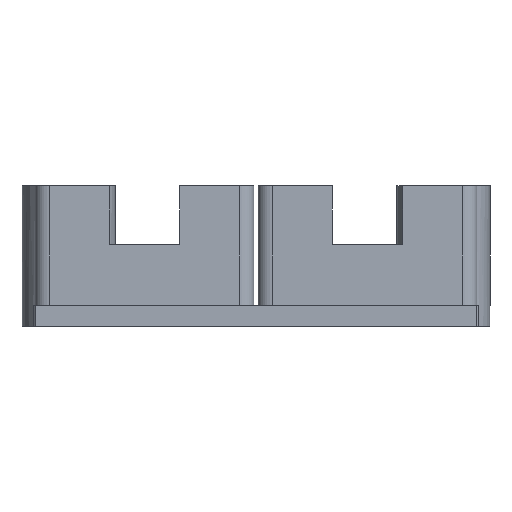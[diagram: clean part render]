
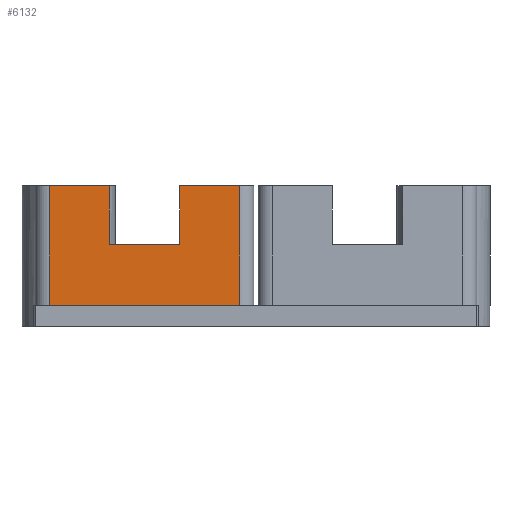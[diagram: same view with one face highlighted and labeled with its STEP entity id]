
A CAD part, front view. The second image highlights one B-rep face of the part: STEP entity #6132.
In plain terms, the highlighted planar face has unit normal (0, -1, 0).
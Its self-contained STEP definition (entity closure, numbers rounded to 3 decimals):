
#906 = PLANE('',#907);
#907 = AXIS2_PLACEMENT_3D('',#908,#909,#910);
#908 = CARTESIAN_POINT('',(-37.925,0.175,11.8));
#909 = DIRECTION('',(0.,0.,1.));
#910 = DIRECTION('',(1.,0.,0.));
#1086 = PLANE('',#1087);
#1087 = AXIS2_PLACEMENT_3D('',#1088,#1089,#1090);
#1088 = CARTESIAN_POINT('',(-18.875,19.225,22.));
#1089 = DIRECTION('',(0.,0.,1.));
#1090 = DIRECTION('',(1.,0.,0.));
#1112 = CYLINDRICAL_SURFACE('',#1113,1.2);
#1113 = AXIS2_PLACEMENT_3D('',#1114,#1115,#1116);
#1114 = CARTESIAN_POINT('',(-17.675,20.425,11.8));
#1115 = DIRECTION('',(0.,0.,1.));
#1116 = DIRECTION('',(-1.,-0.,0.));
#3550 = VERTEX_POINT('',#3551);
#3551 = CARTESIAN_POINT('',(-1.375,19.225,11.8));
#3570 = CYLINDRICAL_SURFACE('',#3571,1.2);
#3571 = AXIS2_PLACEMENT_3D('',#3572,#3573,#3574);
#3572 = CARTESIAN_POINT('',(-1.375,20.425,11.8));
#3573 = DIRECTION('',(0.,0.,1.));
#3574 = DIRECTION('',(1.,0.,-0.));
#3582 = EDGE_CURVE('',#3583,#3550,#3585,.T.);
#3583 = VERTEX_POINT('',#3584);
#3584 = CARTESIAN_POINT('',(-17.675,19.225,11.8));
#3585 = SURFACE_CURVE('',#3586,(#3590,#3597),.PCURVE_S1.);
#3586 = LINE('',#3587,#3588);
#3587 = CARTESIAN_POINT('',(-18.875,19.225,11.8));
#3588 = VECTOR('',#3589,1.);
#3589 = DIRECTION('',(1.,0.,0.));
#3590 = PCURVE('',#906,#3591);
#3591 = DEFINITIONAL_REPRESENTATION('',(#3592),#3596);
#3592 = LINE('',#3593,#3594);
#3593 = CARTESIAN_POINT('',(19.05,19.05));
#3594 = VECTOR('',#3595,1.);
#3595 = DIRECTION('',(1.,0.));
#3596 = ( GEOMETRIC_REPRESENTATION_CONTEXT(2) 
PARAMETRIC_REPRESENTATION_CONTEXT() REPRESENTATION_CONTEXT('2D SPACE',''
  ) );
#3597 = PCURVE('',#3598,#3603);
#3598 = PLANE('',#3599);
#3599 = AXIS2_PLACEMENT_3D('',#3600,#3601,#3602);
#3600 = CARTESIAN_POINT('',(-18.875,19.225,11.8));
#3601 = DIRECTION('',(0.,1.,0.));
#3602 = DIRECTION('',(0.,0.,1.));
#3603 = DEFINITIONAL_REPRESENTATION('',(#3604),#3608);
#3604 = LINE('',#3605,#3606);
#3605 = CARTESIAN_POINT('',(0.,0.));
#3606 = VECTOR('',#3607,1.);
#3607 = DIRECTION('',(0.,1.));
#3608 = ( GEOMETRIC_REPRESENTATION_CONTEXT(2) 
PARAMETRIC_REPRESENTATION_CONTEXT() REPRESENTATION_CONTEXT('2D SPACE',''
  ) );
#3636 = EDGE_CURVE('',#3583,#3637,#3639,.T.);
#3637 = VERTEX_POINT('',#3638);
#3638 = CARTESIAN_POINT('',(-17.675,19.225,22.));
#3639 = SURFACE_CURVE('',#3640,(#3644,#3651),.PCURVE_S1.);
#3640 = LINE('',#3641,#3642);
#3641 = CARTESIAN_POINT('',(-17.675,19.225,11.8));
#3642 = VECTOR('',#3643,1.);
#3643 = DIRECTION('',(0.,0.,1.));
#3644 = PCURVE('',#1112,#3645);
#3645 = DEFINITIONAL_REPRESENTATION('',(#3646),#3650);
#3646 = LINE('',#3647,#3648);
#3647 = CARTESIAN_POINT('',(1.571,0.));
#3648 = VECTOR('',#3649,1.);
#3649 = DIRECTION('',(0.,1.));
#3650 = ( GEOMETRIC_REPRESENTATION_CONTEXT(2) 
PARAMETRIC_REPRESENTATION_CONTEXT() REPRESENTATION_CONTEXT('2D SPACE',''
  ) );
#3651 = PCURVE('',#3598,#3652);
#3652 = DEFINITIONAL_REPRESENTATION('',(#3653),#3657);
#3653 = LINE('',#3654,#3655);
#3654 = CARTESIAN_POINT('',(0.,1.2));
#3655 = VECTOR('',#3656,1.);
#3656 = DIRECTION('',(1.,0.));
#3657 = ( GEOMETRIC_REPRESENTATION_CONTEXT(2) 
PARAMETRIC_REPRESENTATION_CONTEXT() REPRESENTATION_CONTEXT('2D SPACE',''
  ) );
#3687 = EDGE_CURVE('',#3637,#3688,#3690,.T.);
#3688 = VERTEX_POINT('',#3689);
#3689 = CARTESIAN_POINT('',(-12.525,19.225,22.));
#3690 = SURFACE_CURVE('',#3691,(#3695,#3702),.PCURVE_S1.);
#3691 = LINE('',#3692,#3693);
#3692 = CARTESIAN_POINT('',(-18.875,19.225,22.));
#3693 = VECTOR('',#3694,1.);
#3694 = DIRECTION('',(1.,0.,0.));
#3695 = PCURVE('',#1086,#3696);
#3696 = DEFINITIONAL_REPRESENTATION('',(#3697),#3701);
#3697 = LINE('',#3698,#3699);
#3698 = CARTESIAN_POINT('',(0.,0.));
#3699 = VECTOR('',#3700,1.);
#3700 = DIRECTION('',(1.,0.));
#3701 = ( GEOMETRIC_REPRESENTATION_CONTEXT(2) 
PARAMETRIC_REPRESENTATION_CONTEXT() REPRESENTATION_CONTEXT('2D SPACE',''
  ) );
#3702 = PCURVE('',#3598,#3703);
#3703 = DEFINITIONAL_REPRESENTATION('',(#3704),#3708);
#3704 = LINE('',#3705,#3706);
#3705 = CARTESIAN_POINT('',(10.2,0.));
#3706 = VECTOR('',#3707,1.);
#3707 = DIRECTION('',(0.,1.));
#3708 = ( GEOMETRIC_REPRESENTATION_CONTEXT(2) 
PARAMETRIC_REPRESENTATION_CONTEXT() REPRESENTATION_CONTEXT('2D SPACE',''
  ) );
#3725 = PLANE('',#3726);
#3726 = AXIS2_PLACEMENT_3D('',#3727,#3728,#3729);
#3727 = CARTESIAN_POINT('',(-12.525,18.075,17.));
#3728 = DIRECTION('',(1.,0.,0.));
#3729 = DIRECTION('',(0.,0.,1.));
#6132 = ADVANCED_FACE('',(#6133),#3598,.F.);
#6133 = FACE_BOUND('',#6134,.F.);
#6134 = EDGE_LOOP('',(#6135,#6136,#6137,#6138,#6159,#6185,#6211,#6239));
#6135 = ORIENTED_EDGE('',*,*,#3582,.F.);
#6136 = ORIENTED_EDGE('',*,*,#3636,.T.);
#6137 = ORIENTED_EDGE('',*,*,#3687,.T.);
#6138 = ORIENTED_EDGE('',*,*,#6139,.T.);
#6139 = EDGE_CURVE('',#3688,#6140,#6142,.T.);
#6140 = VERTEX_POINT('',#6141);
#6141 = CARTESIAN_POINT('',(-12.525,19.225,17.));
#6142 = SURFACE_CURVE('',#6143,(#6147,#6153),.PCURVE_S1.);
#6143 = LINE('',#6144,#6145);
#6144 = CARTESIAN_POINT('',(-12.525,19.225,14.4));
#6145 = VECTOR('',#6146,1.);
#6146 = DIRECTION('',(0.,0.,-1.));
#6147 = PCURVE('',#3598,#6148);
#6148 = DEFINITIONAL_REPRESENTATION('',(#6149),#6152);
#6149 = B_SPLINE_CURVE_WITH_KNOTS('',1,(#6150,#6151),.UNSPECIFIED.,.F.,
  .F.,(2,2),(-7.6,-2.6),.PIECEWISE_BEZIER_KNOTS.);
#6150 = CARTESIAN_POINT('',(10.2,6.35));
#6151 = CARTESIAN_POINT('',(5.2,6.35));
#6152 = ( GEOMETRIC_REPRESENTATION_CONTEXT(2) 
PARAMETRIC_REPRESENTATION_CONTEXT() REPRESENTATION_CONTEXT('2D SPACE',''
  ) );
#6153 = PCURVE('',#3725,#6154);
#6154 = DEFINITIONAL_REPRESENTATION('',(#6155),#6158);
#6155 = B_SPLINE_CURVE_WITH_KNOTS('',1,(#6156,#6157),.UNSPECIFIED.,.F.,
  .F.,(2,2),(-7.6,-2.6),.PIECEWISE_BEZIER_KNOTS.);
#6156 = CARTESIAN_POINT('',(5.,-1.15));
#6157 = CARTESIAN_POINT('',(0.,-1.15));
#6158 = ( GEOMETRIC_REPRESENTATION_CONTEXT(2) 
PARAMETRIC_REPRESENTATION_CONTEXT() REPRESENTATION_CONTEXT('2D SPACE',''
  ) );
#6159 = ORIENTED_EDGE('',*,*,#6160,.T.);
#6160 = EDGE_CURVE('',#6140,#6161,#6163,.T.);
#6161 = VERTEX_POINT('',#6162);
#6162 = CARTESIAN_POINT('',(-6.525,19.225,17.));
#6163 = SURFACE_CURVE('',#6164,(#6168,#6174),.PCURVE_S1.);
#6164 = LINE('',#6165,#6166);
#6165 = CARTESIAN_POINT('',(-15.7,19.225,17.));
#6166 = VECTOR('',#6167,1.);
#6167 = DIRECTION('',(1.,0.,0.));
#6168 = PCURVE('',#3598,#6169);
#6169 = DEFINITIONAL_REPRESENTATION('',(#6170),#6173);
#6170 = B_SPLINE_CURVE_WITH_KNOTS('',1,(#6171,#6172),.UNSPECIFIED.,.F.,
  .F.,(2,2),(3.175,9.175),.PIECEWISE_BEZIER_KNOTS.);
#6171 = CARTESIAN_POINT('',(5.2,6.35));
#6172 = CARTESIAN_POINT('',(5.2,12.35));
#6173 = ( GEOMETRIC_REPRESENTATION_CONTEXT(2) 
PARAMETRIC_REPRESENTATION_CONTEXT() REPRESENTATION_CONTEXT('2D SPACE',''
  ) );
#6174 = PCURVE('',#6175,#6180);
#6175 = PLANE('',#6176);
#6176 = AXIS2_PLACEMENT_3D('',#6177,#6178,#6179);
#6177 = CARTESIAN_POINT('',(-12.525,18.075,17.));
#6178 = DIRECTION('',(0.,0.,1.));
#6179 = DIRECTION('',(1.,0.,0.));
#6180 = DEFINITIONAL_REPRESENTATION('',(#6181),#6184);
#6181 = B_SPLINE_CURVE_WITH_KNOTS('',1,(#6182,#6183),.UNSPECIFIED.,.F.,
  .F.,(2,2),(3.175,9.175),.PIECEWISE_BEZIER_KNOTS.);
#6182 = CARTESIAN_POINT('',(0.,1.15));
#6183 = CARTESIAN_POINT('',(6.,1.15));
#6184 = ( GEOMETRIC_REPRESENTATION_CONTEXT(2) 
PARAMETRIC_REPRESENTATION_CONTEXT() REPRESENTATION_CONTEXT('2D SPACE',''
  ) );
#6185 = ORIENTED_EDGE('',*,*,#6186,.F.);
#6186 = EDGE_CURVE('',#6187,#6161,#6189,.T.);
#6187 = VERTEX_POINT('',#6188);
#6188 = CARTESIAN_POINT('',(-6.525,19.225,22.));
#6189 = SURFACE_CURVE('',#6190,(#6194,#6200),.PCURVE_S1.);
#6190 = LINE('',#6191,#6192);
#6191 = CARTESIAN_POINT('',(-6.525,19.225,14.4));
#6192 = VECTOR('',#6193,1.);
#6193 = DIRECTION('',(0.,0.,-1.));
#6194 = PCURVE('',#3598,#6195);
#6195 = DEFINITIONAL_REPRESENTATION('',(#6196),#6199);
#6196 = B_SPLINE_CURVE_WITH_KNOTS('',1,(#6197,#6198),.UNSPECIFIED.,.F.,
  .F.,(2,2),(-7.6,-2.6),.PIECEWISE_BEZIER_KNOTS.);
#6197 = CARTESIAN_POINT('',(10.2,12.35));
#6198 = CARTESIAN_POINT('',(5.2,12.35));
#6199 = ( GEOMETRIC_REPRESENTATION_CONTEXT(2) 
PARAMETRIC_REPRESENTATION_CONTEXT() REPRESENTATION_CONTEXT('2D SPACE',''
  ) );
#6200 = PCURVE('',#6201,#6206);
#6201 = PLANE('',#6202);
#6202 = AXIS2_PLACEMENT_3D('',#6203,#6204,#6205);
#6203 = CARTESIAN_POINT('',(-6.525,18.075,17.));
#6204 = DIRECTION('',(1.,0.,0.));
#6205 = DIRECTION('',(0.,0.,1.));
#6206 = DEFINITIONAL_REPRESENTATION('',(#6207),#6210);
#6207 = B_SPLINE_CURVE_WITH_KNOTS('',1,(#6208,#6209),.UNSPECIFIED.,.F.,
  .F.,(2,2),(-7.6,-2.6),.PIECEWISE_BEZIER_KNOTS.);
#6208 = CARTESIAN_POINT('',(5.,-1.15));
#6209 = CARTESIAN_POINT('',(0.,-1.15));
#6210 = ( GEOMETRIC_REPRESENTATION_CONTEXT(2) 
PARAMETRIC_REPRESENTATION_CONTEXT() REPRESENTATION_CONTEXT('2D SPACE',''
  ) );
#6211 = ORIENTED_EDGE('',*,*,#6212,.T.);
#6212 = EDGE_CURVE('',#6187,#6213,#6215,.T.);
#6213 = VERTEX_POINT('',#6214);
#6214 = CARTESIAN_POINT('',(-1.375,19.225,22.));
#6215 = SURFACE_CURVE('',#6216,(#6220,#6227),.PCURVE_S1.);
#6216 = LINE('',#6217,#6218);
#6217 = CARTESIAN_POINT('',(-18.875,19.225,22.));
#6218 = VECTOR('',#6219,1.);
#6219 = DIRECTION('',(1.,0.,0.));
#6220 = PCURVE('',#3598,#6221);
#6221 = DEFINITIONAL_REPRESENTATION('',(#6222),#6226);
#6222 = LINE('',#6223,#6224);
#6223 = CARTESIAN_POINT('',(10.2,0.));
#6224 = VECTOR('',#6225,1.);
#6225 = DIRECTION('',(0.,1.));
#6226 = ( GEOMETRIC_REPRESENTATION_CONTEXT(2) 
PARAMETRIC_REPRESENTATION_CONTEXT() REPRESENTATION_CONTEXT('2D SPACE',''
  ) );
#6227 = PCURVE('',#6228,#6233);
#6228 = PLANE('',#6229);
#6229 = AXIS2_PLACEMENT_3D('',#6230,#6231,#6232);
#6230 = CARTESIAN_POINT('',(-18.875,19.225,22.));
#6231 = DIRECTION('',(0.,0.,1.));
#6232 = DIRECTION('',(1.,0.,0.));
#6233 = DEFINITIONAL_REPRESENTATION('',(#6234),#6238);
#6234 = LINE('',#6235,#6236);
#6235 = CARTESIAN_POINT('',(0.,0.));
#6236 = VECTOR('',#6237,1.);
#6237 = DIRECTION('',(1.,0.));
#6238 = ( GEOMETRIC_REPRESENTATION_CONTEXT(2) 
PARAMETRIC_REPRESENTATION_CONTEXT() REPRESENTATION_CONTEXT('2D SPACE',''
  ) );
#6239 = ORIENTED_EDGE('',*,*,#6240,.F.);
#6240 = EDGE_CURVE('',#3550,#6213,#6241,.T.);
#6241 = SURFACE_CURVE('',#6242,(#6246,#6253),.PCURVE_S1.);
#6242 = LINE('',#6243,#6244);
#6243 = CARTESIAN_POINT('',(-1.375,19.225,11.8));
#6244 = VECTOR('',#6245,1.);
#6245 = DIRECTION('',(0.,0.,1.));
#6246 = PCURVE('',#3598,#6247);
#6247 = DEFINITIONAL_REPRESENTATION('',(#6248),#6252);
#6248 = LINE('',#6249,#6250);
#6249 = CARTESIAN_POINT('',(0.,17.5));
#6250 = VECTOR('',#6251,1.);
#6251 = DIRECTION('',(1.,0.));
#6252 = ( GEOMETRIC_REPRESENTATION_CONTEXT(2) 
PARAMETRIC_REPRESENTATION_CONTEXT() REPRESENTATION_CONTEXT('2D SPACE',''
  ) );
#6253 = PCURVE('',#3570,#6254);
#6254 = DEFINITIONAL_REPRESENTATION('',(#6255),#6259);
#6255 = LINE('',#6256,#6257);
#6256 = CARTESIAN_POINT('',(-1.571,0.));
#6257 = VECTOR('',#6258,1.);
#6258 = DIRECTION('',(-0.,1.));
#6259 = ( GEOMETRIC_REPRESENTATION_CONTEXT(2) 
PARAMETRIC_REPRESENTATION_CONTEXT() REPRESENTATION_CONTEXT('2D SPACE',''
  ) );
